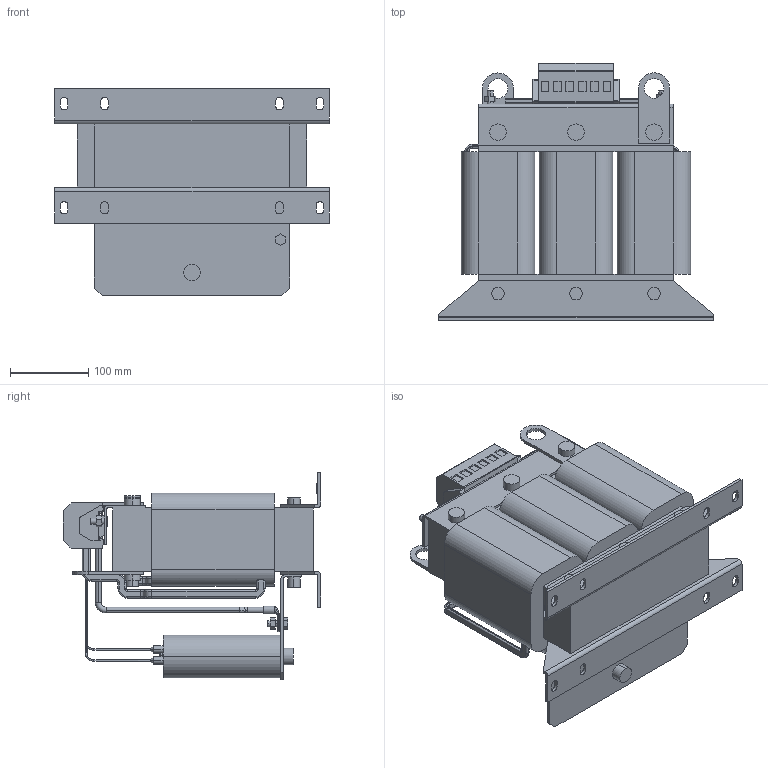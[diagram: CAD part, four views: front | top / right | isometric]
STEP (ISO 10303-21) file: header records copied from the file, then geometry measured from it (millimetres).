
FILE_DESCRIPTION (( 'STEP AP214' ), '1' );
FILE_NAME ('00Z1GX4-0020.STEP', '2022-11-22T13:11:17', ( '' ), ( '' ), 'SwSTEP 2.0', 'SolidWorks 2022', '' );
FILE_SCHEMA (( 'AUTOMOTIVE_DESIGN' ));
Length unit declared in the file: centimetre
Products named in the file (1): 00Z1GX4-0020
Bounding box: 352 x 329.8 x 266.3 mm (x, y, z)
Volume: 8403672.3 mm3; surface area: 635536.1 mm2
Topology: 1 solids, 1 shells, 964 faces, 2421 edges, 1507 vertices
Faces by surface type: plane 400, cylinder 375, torus 150, bspline 33, cone 6
Entity records: 33082 total; most frequent: CARTESIAN_POINT 9394, DIRECTION 5046, ORIENTED_EDGE 4842, EDGE_CURVE 2421, AXIS2_PLACEMENT_3D 1876, VERTEX_POINT 1507, VECTOR 1294, LINE 1294
